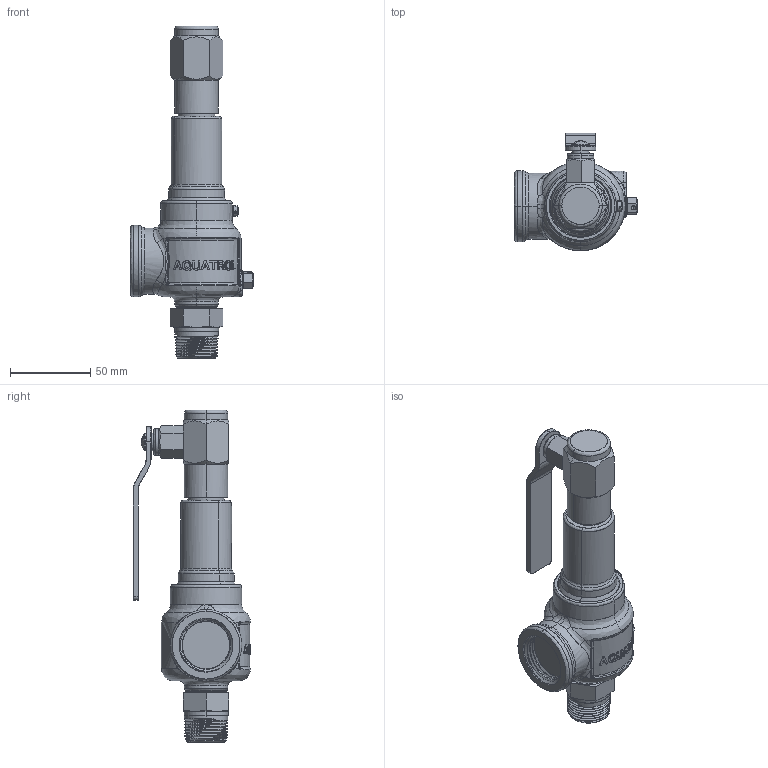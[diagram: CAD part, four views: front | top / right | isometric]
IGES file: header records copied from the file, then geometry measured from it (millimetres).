
Start section: SolidWorks IGES file using NURBS representation for surfaces
Global section: file name: C:\Design\Design\Aquatrol\Customer 3D Files\Series 740 Customer Files\D Orifice\Customer\Iges Files\Series 740 D 750 x 1000 Packed Lever.IGS; native system: SolidWorks 2015; preprocessor: SolidWorks 2015; author: Karl; date: 150515.081108; units: inch
Bounding box: 76.94 x 73.07 x 206.81 mm (x, y, z)
Surface area: 39074 mm2 (no closed solid volume)
Topology: 0 solids, 0 shells, 453 faces, 6965 edges, 6965 vertices
Faces by surface type: bspline 453
